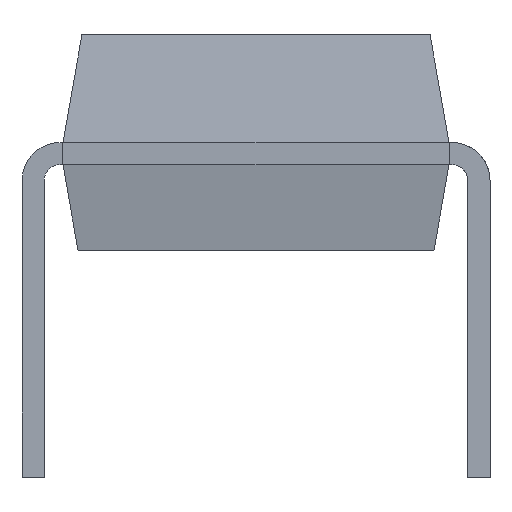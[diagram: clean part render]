
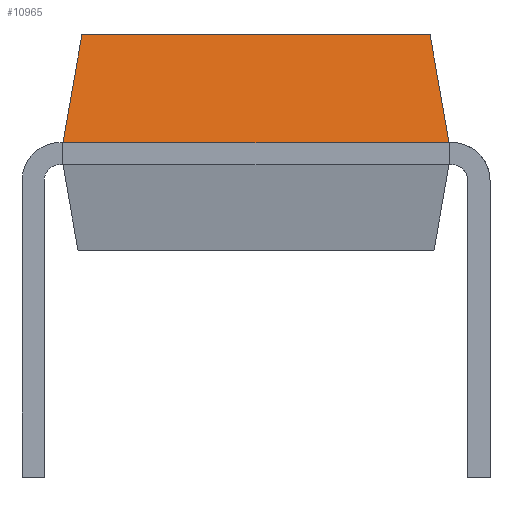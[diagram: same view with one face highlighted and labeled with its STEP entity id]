
A CAD part, left-side view. The second image highlights one B-rep face of the part: STEP entity #10965.
In plain terms, the highlighted planar face has unit normal (-0.985, 0, 0.174).
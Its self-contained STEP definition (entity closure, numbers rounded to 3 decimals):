
#1396=FACE_OUTER_BOUND('',#2016,.T.);
#2016=EDGE_LOOP('',(#9488,#9489,#9490,#9491));
#2869=LINE('',#19285,#3915);
#2888=LINE('',#19328,#3934);
#2890=LINE('',#19332,#3936);
#2891=LINE('',#19333,#3937);
#3915=VECTOR('',#12636,1.);
#3934=VECTOR('',#12679,1.);
#3936=VECTOR('',#12685,1.);
#3937=VECTOR('',#12686,1.);
#5081=VERTEX_POINT('',#19279);
#5083=VERTEX_POINT('',#19283);
#5093=VERTEX_POINT('',#19316);
#5094=VERTEX_POINT('',#19322);
#6579=EDGE_CURVE('',#5081,#5083,#2869,.T.);
#6598=EDGE_CURVE('',#5094,#5093,#2888,.T.);
#6600=EDGE_CURVE('',#5093,#5081,#2890,.T.);
#6601=EDGE_CURVE('',#5083,#5094,#2891,.T.);
#9488=ORIENTED_EDGE('',*,*,#6600,.T.);
#9489=ORIENTED_EDGE('',*,*,#6579,.T.);
#9490=ORIENTED_EDGE('',*,*,#6601,.T.);
#9491=ORIENTED_EDGE('',*,*,#6598,.T.);
#10388=PLANE('',#11344);
#10965=ADVANCED_FACE('',(#1396),#10388,.F.);
#11344=AXIS2_PLACEMENT_3D('',#19331,#12683,#12684);
#12636=DIRECTION('',(0.,1.,0.));
#12679=DIRECTION('',(0.,-1.,0.));
#12683=DIRECTION('center_axis',(0.985,0.,-0.174));
#12684=DIRECTION('ref_axis',(0.,1.,0.));
#12685=DIRECTION('',(0.171,0.171,0.97));
#12686=DIRECTION('',(-0.171,0.171,-0.97));
#19279=CARTESIAN_POINT('',(0.236,1.897,4.06));
#19283=CARTESIAN_POINT('',(0.236,7.848,4.06));
#19285=CARTESIAN_POINT('',(0.236,4.872,4.06));
#19316=CARTESIAN_POINT('',(-0.089,1.572,2.22));
#19322=CARTESIAN_POINT('',(-0.089,8.172,2.22));
#19328=CARTESIAN_POINT('',(-0.089,3.222,2.22));
#19331=CARTESIAN_POINT('Origin',(0.059,4.872,3.056));
#19332=CARTESIAN_POINT('',(0.151,1.812,3.58));
#19333=CARTESIAN_POINT('',(0.151,7.933,3.58));
